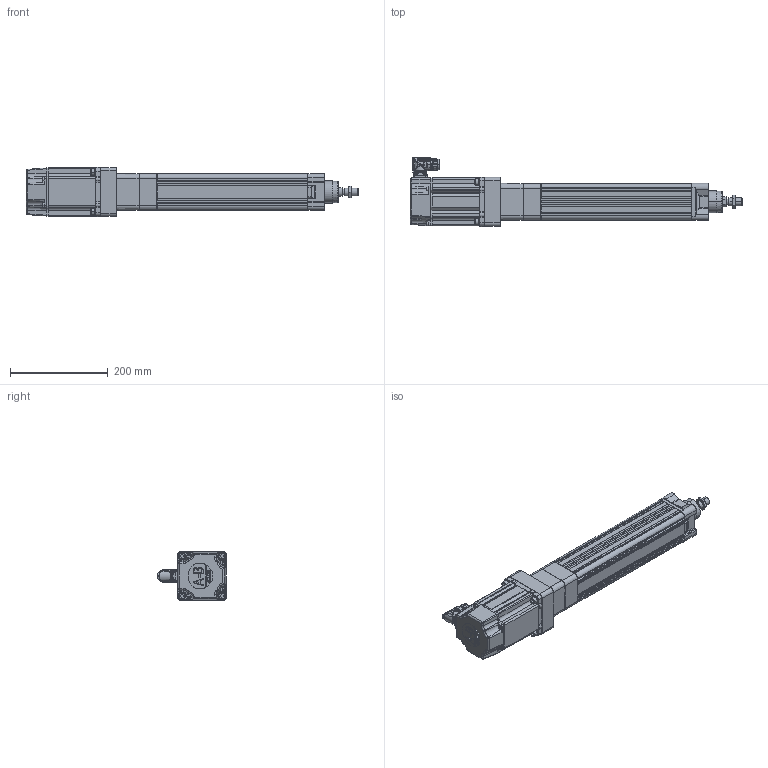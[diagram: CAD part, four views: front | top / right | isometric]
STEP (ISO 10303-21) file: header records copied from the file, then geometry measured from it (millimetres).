
FILE_DESCRIPTION((''),'2;1');
FILE_NAME('10004525389_ASM','2019-01-10T11:06:59',('MKedar'),('Rockwell Automation'),'CREO PARAMETRIC BY PTC INC, 2017380','CREO PARAMETRIC BY PTC INC, 2017380','');
FILE_SCHEMA(('CONFIG_CONTROL_DESIGN','SHAPE_APPEARANCE_LAYERS_GROUPS'));
Length unit declared in the file: inch
Products named in the file (22): MPAR-X3200X-HOUSE-B; MPAR-X3200X-ROD-B; B627478; A640593; MPARX3200XELECCYLB_ASM; MPARX3XXXXCOUPHAUSB; MPARX3XXXHMOTFLNGB; DIN912-8X20; DIN125-8; 10003642529_ASM; 10004351517; 10004351518; 10004310098; DIN912-3X20; 10004310096; 19-10131-007; 10004351519_ASM; 10004351520; 10004351521; 10004351522; 10004351523_ASM; 10004525389_ASM
Assembly tree (49 placements, depth 4):
  10004525389_ASM
    MPARX3200XELECCYLB_ASM
      MPAR-X3200X-HOUSE-B
      MPAR-X3200X-ROD-B
      B627478
      A640593
    10003642529_ASM
      MPARX3XXXXCOUPHAUSB
      MPARX3XXXHMOTFLNGB
      DIN912-8X20  x4
      DIN125-8  x4
    10004351523_ASM
      10004351519_ASM
        10004351517
        10004351518
        10004310098
        DIN912-3X20  x4
        10004310096
        19-10131-007  x4
      10004351520
      10004351521
      10004351522
      19-10131-007  x8
      DIN125-8  x4
      DIN912-8X20  x4
Bounding box: 677.9 x 141.99 x 101.55 mm (x, y, z)
Volume: 2012258 mm3; surface area: 642401.8 mm2
Topology: 43 solids, 58 shells, 3866 faces, 10283 edges, 6621 vertices
Faces by surface type: plane 1443, cylinder 1158, bspline 413, cone 373, torus 252, extrusion 182, sphere 43, revolution 2
Entity records: 195964 total; most frequent: CARTESIAN_POINT 77749, ORIENTED_EDGE 18506, DIRECTION 15175, EDGE_CURVE 9273, PRESENTATION_STYLE_ASSIGNMENT 9128, STYLED_ITEM 8049, CURVE_STYLE 7186, VERTEX_POINT 6041
